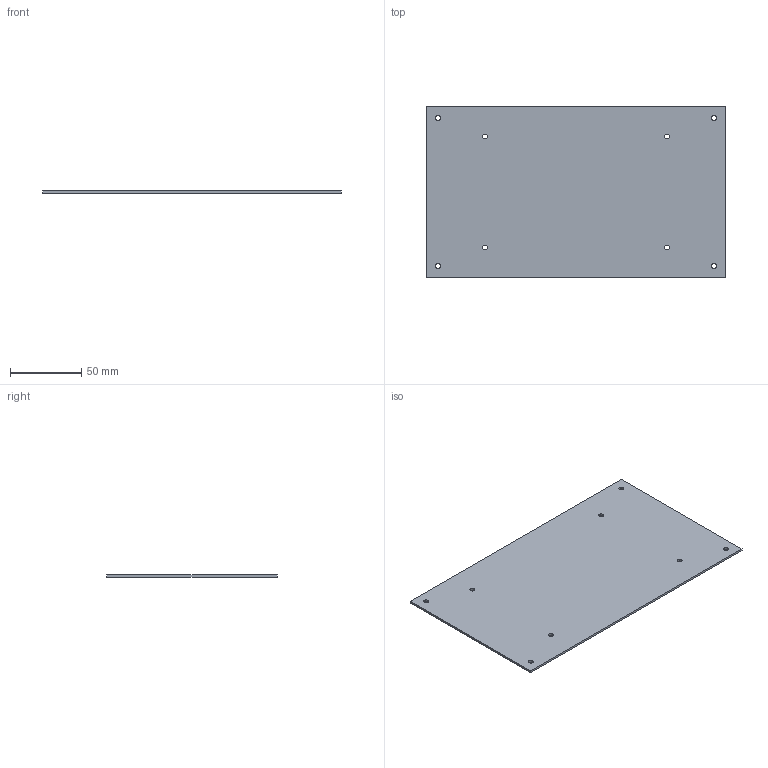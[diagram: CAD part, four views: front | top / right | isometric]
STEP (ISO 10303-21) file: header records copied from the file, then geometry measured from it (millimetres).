
FILE_DESCRIPTION(('Open CASCADE Model'),'2;1');
FILE_NAME('Open CASCADE Shape Model','2026-10-28T07:21:43',('Author'),( 'Open CASCADE'),'Open CASCADE STEP processor 7.8','Open CASCADE 7.8' ,'Unknown');
FILE_SCHEMA(('AUTOMOTIVE_DESIGN { 1 0 10303 214 1 1 1 1 }'));
Length unit declared in the file: millimetre
Products named in the file (1): Open CASCADE STEP translator 7.8 17
Bounding box: 210 x 120 x 1.5 mm (x, y, z)
Volume: 37691 mm3; surface area: 51372.9 mm2
Topology: 1 solids, 1 shells, 14 faces, 36 edges, 24 vertices
Faces by surface type: cylinder 8, plane 6
Full cylindrical faces by diameter (mm): 3.4 x8
Entity records: 946 total; most frequent: DIRECTION 154, CARTESIAN_POINT 147, LINE 76, VECTOR 76, ORIENTED_EDGE 72, PCURVE 72, DEFINITIONAL_REPRESENTATION 72, EDGE_CURVE 36
